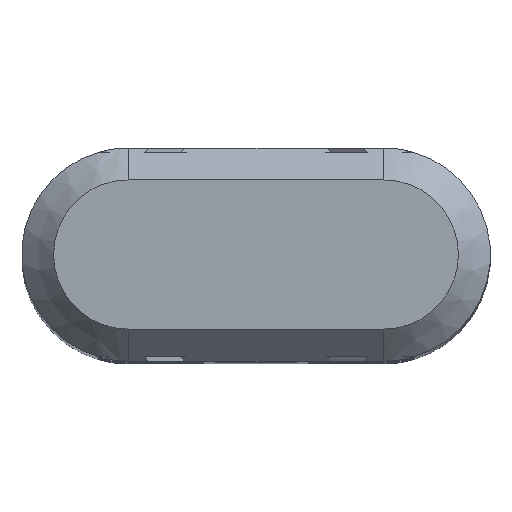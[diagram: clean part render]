
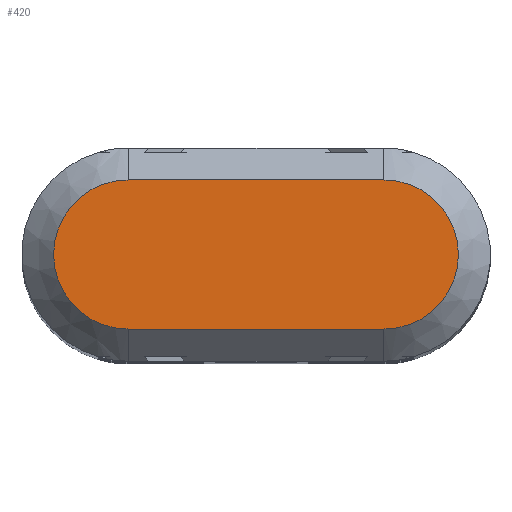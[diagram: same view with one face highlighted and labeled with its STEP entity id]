
A CAD part, top view. The second image highlights one B-rep face of the part: STEP entity #420.
In plain terms, the highlighted planar face has unit normal (0, 0, 1).
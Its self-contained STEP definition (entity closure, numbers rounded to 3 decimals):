
#10=CARTESIAN_POINT('',(13.869,4.044,-13.));
#20=DIRECTION('',(0.,0.,1.));
#30=DIRECTION('',(1.,0.,0.));
#40=AXIS2_PLACEMENT_3D('',#10,#20,#30);
#50=PLANE('',#40);
#60=CARTESIAN_POINT('',(7.869,4.044,-13.));
#70=DIRECTION('',(0.,0.,1.));
#80=DIRECTION('',(1.,0.,-0.));
#90=AXIS2_PLACEMENT_3D('',#60,#70,#80);
#100=CIRCLE('',#90,3.5);
#110=CARTESIAN_POINT('',(7.869,7.544,-13.));
#120=VERTEX_POINT('',#110);
#130=CARTESIAN_POINT('',(7.869,0.544,-13.));
#140=VERTEX_POINT('',#130);
#150=EDGE_CURVE('',#120,#140,#100,.T.);
#160=ORIENTED_EDGE('',*,*,#150,.T.);
#170=CARTESIAN_POINT('',(13.869,7.544,-13.));
#180=DIRECTION('',(-1.,0.,0.));
#190=VECTOR('',#180,1.);
#200=LINE('',#170,#190);
#210=CARTESIAN_POINT('',(19.869,7.544,-13.));
#220=VERTEX_POINT('',#210);
#230=EDGE_CURVE('',#220,#120,#200,.T.);
#240=ORIENTED_EDGE('',*,*,#230,.T.);
#250=CARTESIAN_POINT('',(19.869,4.044,-13.));
#260=DIRECTION('',(0.,0.,1.));
#270=DIRECTION('',(1.,0.,-0.));
#280=AXIS2_PLACEMENT_3D('',#250,#260,#270);
#290=CIRCLE('',#280,3.5);
#300=CARTESIAN_POINT('',(19.869,0.544,-13.));
#310=VERTEX_POINT('',#300);
#320=EDGE_CURVE('',#310,#220,#290,.T.);
#330=ORIENTED_EDGE('',*,*,#320,.T.);
#340=CARTESIAN_POINT('',(13.869,0.544,-13.));
#350=DIRECTION('',(1.,0.,-0.));
#360=VECTOR('',#350,1.);
#370=LINE('',#340,#360);
#380=EDGE_CURVE('',#140,#310,#370,.T.);
#390=ORIENTED_EDGE('',*,*,#380,.T.);
#400=EDGE_LOOP('',(#390,#330,#240,#160));
#410=FACE_OUTER_BOUND('',#400,.T.);
#420=ADVANCED_FACE('',(#410),#50,.T.);
